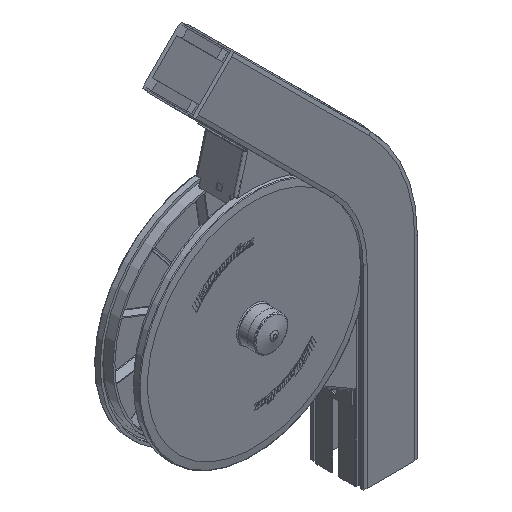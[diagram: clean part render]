
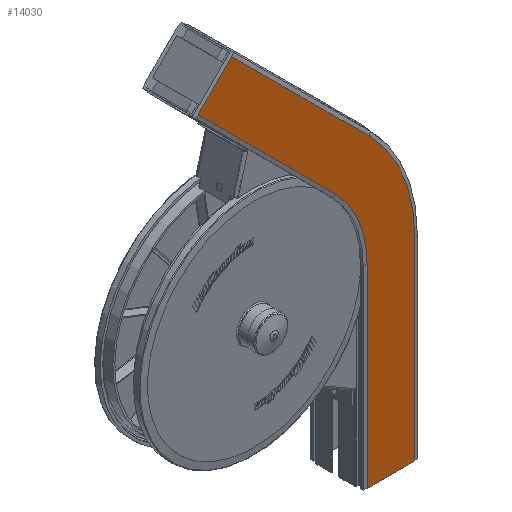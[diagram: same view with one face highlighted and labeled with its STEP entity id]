
A CAD part, isometric view. The second image highlights one B-rep face of the part: STEP entity #14030.
In plain terms, the highlighted planar face has unit normal (0, -1, 0).
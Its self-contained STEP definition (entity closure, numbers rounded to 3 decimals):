
#1062=FACE_OUTER_BOUND('',#1895,.T.);
#1895=EDGE_LOOP('',(#10192,#10193,#10194,#10195,#10196,#10197,#10198,#10199));
#2748=CIRCLE('',#15126,239.);
#2751=CIRCLE('',#15132,166.);
#3476=LINE('',#21328,#4792);
#3481=LINE('',#21337,#4797);
#3483=LINE('',#21342,#4799);
#3498=LINE('',#21382,#4814);
#3503=LINE('',#21393,#4819);
#3504=LINE('',#21395,#4820);
#4792=VECTOR('',#16951,10.);
#4797=VECTOR('',#16958,10.);
#4799=VECTOR('',#16962,10.);
#4814=VECTOR('',#17003,10.);
#4819=VECTOR('',#17016,10.);
#4820=VECTOR('',#17019,10.);
#6074=VERTEX_POINT('',#21325);
#6075=VERTEX_POINT('',#21327);
#6078=VERTEX_POINT('',#21334);
#6079=VERTEX_POINT('',#21339);
#6089=VERTEX_POINT('',#21365);
#6091=VERTEX_POINT('',#21375);
#6092=VERTEX_POINT('',#21380);
#6094=VERTEX_POINT('',#21391);
#7574=EDGE_CURVE('',#6075,#6074,#3476,.T.);
#7579=EDGE_CURVE('',#6075,#6078,#3481,.T.);
#7581=EDGE_CURVE('',#6074,#6079,#3483,.T.);
#7594=EDGE_CURVE('',#6079,#6089,#2748,.T.);
#7600=EDGE_CURVE('',#6078,#6091,#2751,.T.);
#7602=EDGE_CURVE('',#6089,#6092,#3498,.T.);
#7607=EDGE_CURVE('',#6091,#6094,#3503,.T.);
#7608=EDGE_CURVE('',#6092,#6094,#3504,.T.);
#10192=ORIENTED_EDGE('',*,*,#7608,.T.);
#10193=ORIENTED_EDGE('',*,*,#7607,.F.);
#10194=ORIENTED_EDGE('',*,*,#7600,.F.);
#10195=ORIENTED_EDGE('',*,*,#7579,.F.);
#10196=ORIENTED_EDGE('',*,*,#7574,.T.);
#10197=ORIENTED_EDGE('',*,*,#7581,.T.);
#10198=ORIENTED_EDGE('',*,*,#7594,.T.);
#10199=ORIENTED_EDGE('',*,*,#7602,.T.);
#13487=PLANE('',#15138);
#14030=ADVANCED_FACE('',(#1062),#13487,.T.);
#15126=AXIS2_PLACEMENT_3D('',#21367,#16983,#16984);
#15132=AXIS2_PLACEMENT_3D('',#21378,#16998,#16999);
#15138=AXIS2_PLACEMENT_3D('',#21394,#17017,#17018);
#16951=DIRECTION('',(1.,0.,0.));
#16958=DIRECTION('',(0.,0.,1.));
#16962=DIRECTION('',(0.,0.,1.));
#16983=DIRECTION('center_axis',(0.,-1.,0.));
#16984=DIRECTION('ref_axis',(1.,0.,0.));
#16998=DIRECTION('center_axis',(0.,-1.,0.));
#16999=DIRECTION('ref_axis',(1.,0.,0.));
#17003=DIRECTION('',(-0.707,0.,0.707));
#17016=DIRECTION('',(-0.707,0.,0.707));
#17017=DIRECTION('center_axis',(0.,-1.,0.));
#17018=DIRECTION('ref_axis',(0.707,0.,-0.707));
#17019=DIRECTION('',(-0.707,0.,-0.707));
#21325=CARTESIAN_POINT('',(36.5,-11.,0.));
#21327=CARTESIAN_POINT('',(-36.5,-11.,0.));
#21328=CARTESIAN_POINT('',(-36.5,-11.,0.));
#21334=CARTESIAN_POINT('',(-36.5,-11.,297.5));
#21337=CARTESIAN_POINT('',(-36.5,-11.,0.));
#21339=CARTESIAN_POINT('',(36.5,-11.,297.5));
#21342=CARTESIAN_POINT('',(36.5,-11.,0.));
#21365=CARTESIAN_POINT('',(-33.501,-11.,466.499));
#21367=CARTESIAN_POINT('Origin',(-202.5,-11.,297.5));
#21375=CARTESIAN_POINT('',(-85.12,-11.,414.88));
#21378=CARTESIAN_POINT('Origin',(-202.5,-11.,297.5));
#21380=CARTESIAN_POINT('',(-243.866,-11.,676.863));
#21382=CARTESIAN_POINT('',(289.323,-11.,143.674));
#21391=CARTESIAN_POINT('',(-295.485,-11.,625.244));
#21393=CARTESIAN_POINT('',(237.704,-11.,92.055));
#21394=CARTESIAN_POINT('Origin',(289.323,-11.,143.674));
#21395=CARTESIAN_POINT('',(-255.71,-11.,665.019));
